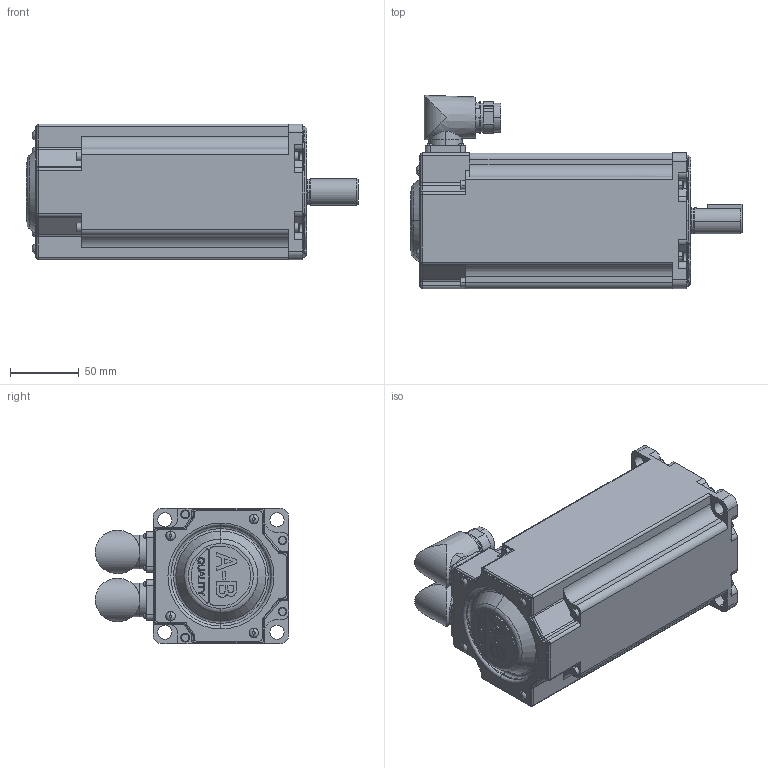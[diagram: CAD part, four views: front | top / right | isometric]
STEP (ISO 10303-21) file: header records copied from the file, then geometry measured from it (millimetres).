
FILE_DESCRIPTION (( 'STEP AP214' ), '1' );
FILE_NAME ('Rockwell Automation-MPM-B1153T-xx72xx.STEP', '2012-08-22T12:31:45', ( 'sysAdmin' ), ( 'SolidWorks' ), 'SwSTEP 2.0', 'SolidWorks 2012', '' );
FILE_SCHEMA (( 'AUTOMOTIVE_DESIGN' ));
Length unit declared in the file: inch
Products named in the file (5): Rockwell Automation-MPM-B1153T-xx72xx_MPM-xxxx-Power Connector-M23; Rockwell Automation-MPM-B1153T-xx72xx_MPM-xxxx-Encoder Connector; Rockwell Automation-MPM-B1153T-xx72xx_MPM-115x-Shaft_1153-shaft-key; Rockwell Automation-MPM-B1153T-xx72xx_MPM-115x-Body_1153; Rockwell Automation-MPM-B1153T-xx72xx
Assembly tree (4 placements, depth 2):
  Rockwell Automation-MPM-B1153T-xx72xx
    Rockwell Automation-MPM-B1153T-xx72xx_MPM-115x-Body_1153
    Rockwell Automation-MPM-B1153T-xx72xx_MPM-115x-Shaft_1153-shaft-key
    Rockwell Automation-MPM-B1153T-xx72xx_MPM-xxxx-Encoder Connector
    Rockwell Automation-MPM-B1153T-xx72xx_MPM-xxxx-Power Connector-M23
Bounding box: 240.66 x 140.21 x 98.3 mm (x, y, z)
Volume: 916967.3 mm3; surface area: 214465.5 mm2
Topology: 5 solids, 5 shells, 1027 faces, 2524 edges, 1606 vertices
Faces by surface type: plane 413, cylinder 386, cone 100, torus 96, bspline 32
Entity records: 35458 total; most frequent: CARTESIAN_POINT 7539, DIRECTION 5488, ORIENTED_EDGE 5044, EDGE_CURVE 2522, AXIS2_PLACEMENT_3D 2072, VERTEX_POINT 1606, LINE 1344, VECTOR 1344
